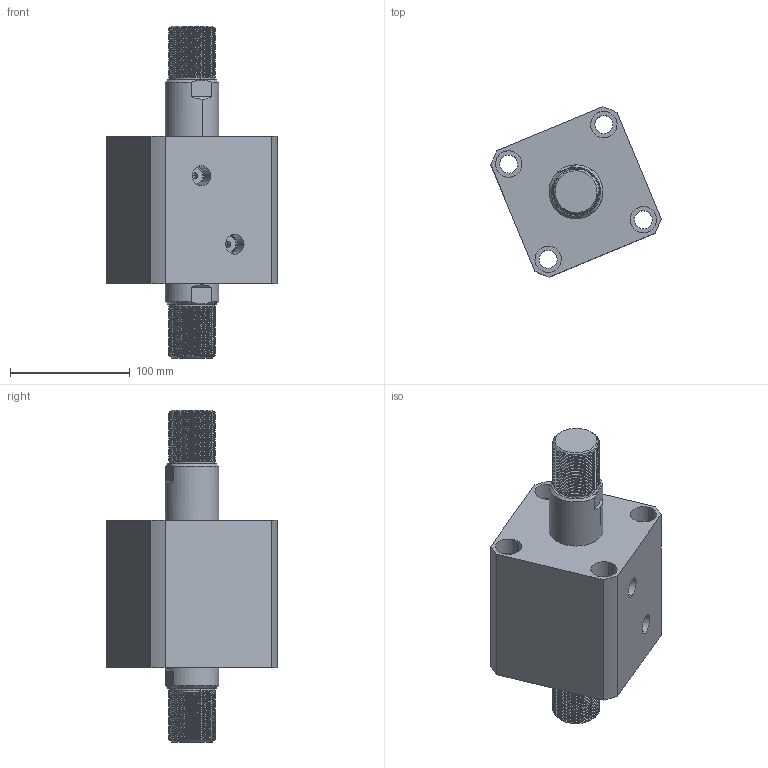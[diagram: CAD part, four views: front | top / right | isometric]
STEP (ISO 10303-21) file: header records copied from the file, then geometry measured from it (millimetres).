
FILE_DESCRIPTION (( 'STEP AP214' ), '1' );
FILE_NAME ('chtb-sw80x30w_asm.STEP', '2018-05-28T01:42:15', ( 'Windows' ), ( 'Microsoft' ), 'SwSTEP 2.0', 'SolidWorks 2015', '' );
FILE_SCHEMA (( 'AUTOMOTIVE_DESIGN' ));
Length unit declared in the file: millimetre
Products named in the file (4): CHTB-SW80X30WHSG; CHTB-SW80X30NBT; CHTB-SD80QG; chtb-sw80x30w_asm
Assembly tree (3 placements, depth 2):
  chtb-sw80x30w_asm
    CHTB-SD80QG
    CHTB-SW80X30NBT
    CHTB-SW80X30WHSG
Bounding box: 142.06 x 142.06 x 277 mm (x, y, z)
Volume: 1545829.1 mm3; surface area: 216753.6 mm2
Topology: 3 solids, 3 shells, 330 faces, 908 edges, 607 vertices
Faces by surface type: cylinder 221, plane 48, cone 25, bspline 18, torus 18
Entity records: 25864 total; most frequent: CARTESIAN_POINT 18238, ORIENTED_EDGE 1808, DIRECTION 1338, EDGE_CURVE 904, VERTEX_POINT 607, AXIS2_PLACEMENT_3D 532, EDGE_LOOP 373, ADVANCED_FACE 330
